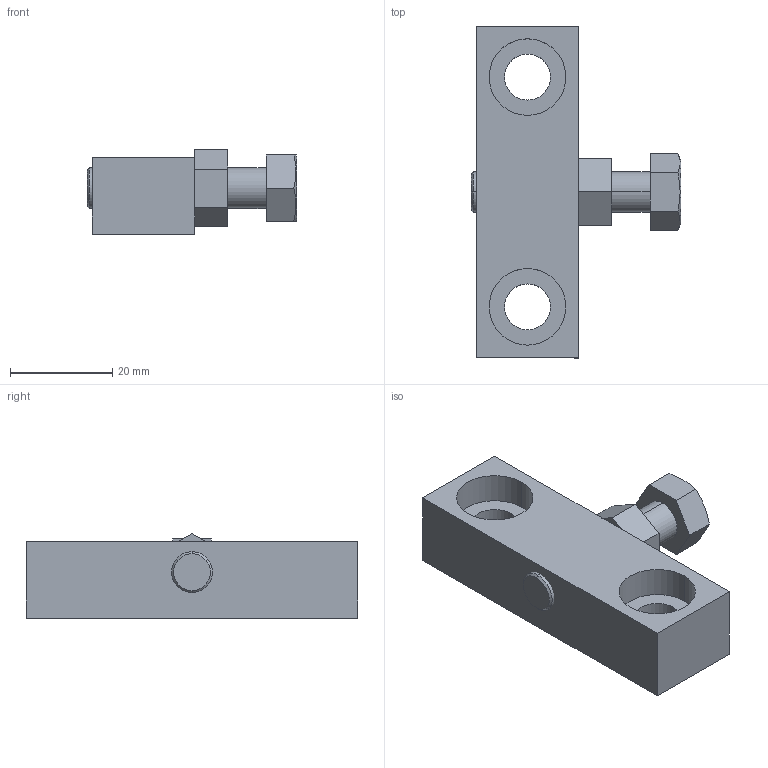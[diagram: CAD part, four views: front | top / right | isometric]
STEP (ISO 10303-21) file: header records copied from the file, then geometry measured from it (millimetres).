
FILE_DESCRIPTION (( 'STEP AP203' ), '1' );
FILE_NAME ('084.803.003.STEP', '2013-01-29T14:01:42', ( 'Alusic' ), ( 'Alusic' ), 'SwSTEP 2.0', 'SolidWorks 2011', '' );
FILE_SCHEMA (( 'CONFIG_CONTROL_DESIGN' ));
Length unit declared in the file: millimetre
Products named in the file (1): 084.803.003
Bounding box: 41 x 65 x 16.51 mm (x, y, z)
Volume: 18764.2 mm3; surface area: 8399.6 mm2
Topology: 3 solids, 3 shells, 43 faces, 100 edges, 66 vertices
Faces by surface type: plane 25, cylinder 14, cone 4
Entity records: 1363 total; most frequent: CARTESIAN_POINT 270, DIRECTION 212, ORIENTED_EDGE 200, EDGE_CURVE 100, AXIS2_PLACEMENT_3D 76, VERTEX_POINT 66, LINE 60, VECTOR 60
